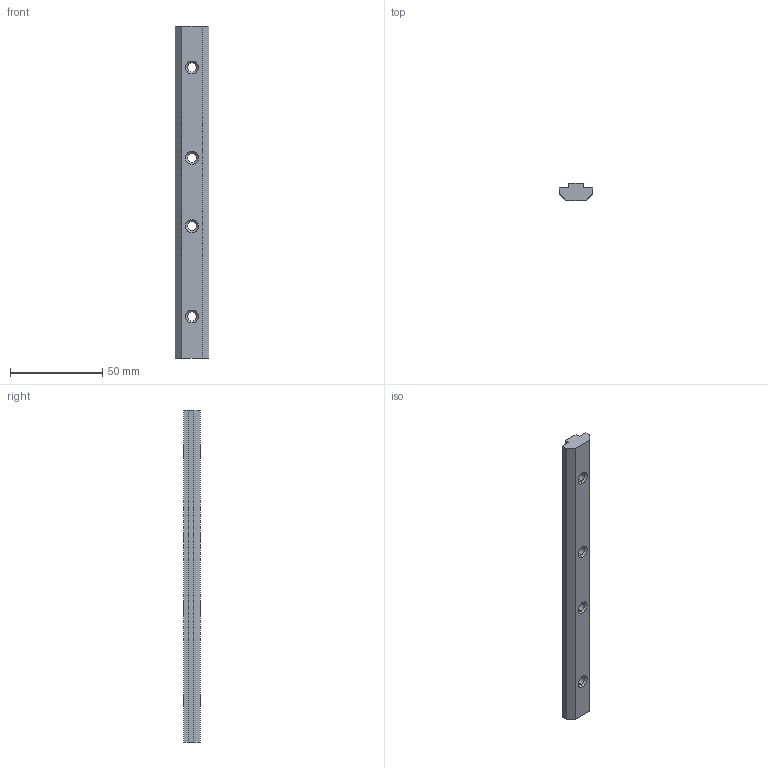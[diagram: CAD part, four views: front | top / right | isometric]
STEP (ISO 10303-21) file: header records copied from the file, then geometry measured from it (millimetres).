
FILE_DESCRIPTION (( 'STEP AP203' ), '1' );
FILE_NAME ('2028al.STEP', '2017-02-14T08:42:05', ( 'RosInstal-MKM' ), ( '' ), 'SwSTEP 2.0', 'SolidWorks 2014', '' );
FILE_SCHEMA (( 'CONFIG_CONTROL_DESIGN' ));
Length unit declared in the file: millimetre
Products named in the file (1): 2028al
Bounding box: 18 x 9.04 x 180 mm (x, y, z)
Volume: 21744.3 mm3; surface area: 9584.9 mm2
Topology: 1 solids, 1 shells, 36 faces, 86 edges, 52 vertices
Faces by surface type: cone 16, plane 12, cylinder 8
Entity records: 1127 total; most frequent: DIRECTION 192, CARTESIAN_POINT 175, ORIENTED_EDGE 172, EDGE_CURVE 86, AXIS2_PLACEMENT_3D 69, VECTOR 54, LINE 54, VERTEX_POINT 52
